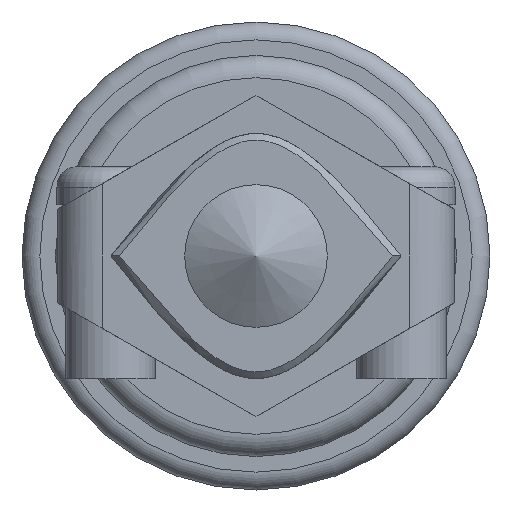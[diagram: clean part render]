
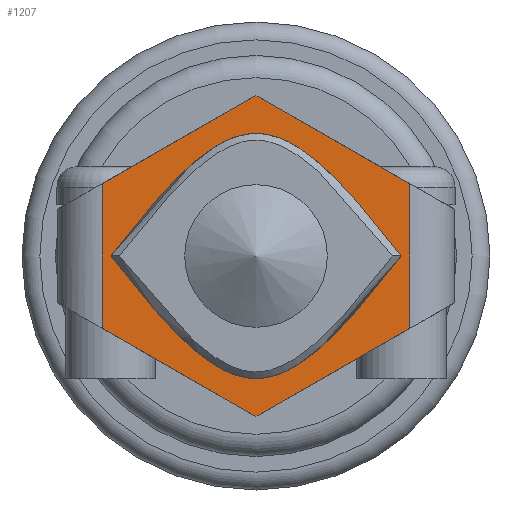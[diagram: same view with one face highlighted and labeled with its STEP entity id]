
A CAD part, left-side view. The second image highlights one B-rep face of the part: STEP entity #1207.
In plain terms, the highlighted planar face has unit normal (-1, 0, 0).
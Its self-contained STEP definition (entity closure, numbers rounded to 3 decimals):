
#64 = CARTESIAN_POINT ( 'NONE',  ( 111.691, 54.661, 50.653 ) ) ;
#113 = LINE ( 'NONE', #1614, #428 ) ;
#177 = VERTEX_POINT ( 'NONE', #1592 ) ;
#184 = CARTESIAN_POINT ( 'NONE',  ( 111.691, 61.561, 54.607 ) ) ;
#202 = FACE_OUTER_BOUND ( 'NONE', #673, .T. ) ;
#216 = ORIENTED_EDGE ( 'NONE', *, *, #2241, .F. ) ;
#304 = DIRECTION ( 'NONE',  ( 0., 0., -1. ) ) ;
#340 = VECTOR ( 'NONE', #2310, 1000. ) ;
#399 = VERTEX_POINT ( 'NONE', #584 ) ;
#424 = CARTESIAN_POINT ( 'NONE',  ( 111.691, 45.761, 55.753 ) ) ;
#428 = VECTOR ( 'NONE', #2366, 1000. ) ;
#482 = ORIENTED_EDGE ( 'NONE', *, *, #1874, .T. ) ;
#484 = CARTESIAN_POINT ( 'NONE',  ( 111.691, 45.761, 59.953 ) ) ;
#542 = EDGE_CURVE ( 'NONE', #968, #177, #690, .T. ) ;
#584 = CARTESIAN_POINT ( 'NONE',  ( 111.691, 61.161, 57.853 ) ) ;
#590 = ORIENTED_EDGE ( 'NONE', *, *, #542, .T. ) ;
#636 = CARTESIAN_POINT ( 'NONE',  ( 111.691, 61.161, 57.853 ) ) ;
#639 = AXIS2_PLACEMENT_3D ( 'NONE', #1683, #951, #913 ) ;
#656 = CARTESIAN_POINT ( 'NONE',  ( 111.691, 48.161, 57.853 ) ) ;
#659 = CARTESIAN_POINT ( 'NONE',  ( 111.691, 61.561, 59.953 ) ) ;
#665 = CARTESIAN_POINT ( 'NONE',  ( 111.691, 58.994, 55.103 ) ) ;
#671 = EDGE_CURVE ( 'NONE', #1957, #735, #1008, .T. ) ;
#673 = EDGE_LOOP ( 'NONE', ( #1228, #1177, #590, #938, #482, #2337 ) ) ;
#684 = CARTESIAN_POINT ( 'NONE',  ( 111.691, 47.761, 61.099 ) ) ;
#690 = LINE ( 'NONE', #484, #2046 ) ;
#691 = CARTESIAN_POINT ( 'NONE',  ( 111.691, 47.761, 54.607 ) ) ;
#735 = VERTEX_POINT ( 'NONE', #64 ) ;
#797 = EDGE_CURVE ( 'NONE', #735, #1891, #2358, .T. ) ;
#800 = VERTEX_POINT ( 'NONE', #1165 ) ;
#822 = VECTOR ( 'NONE', #1389, 1000. ) ;
#825 = CARTESIAN_POINT ( 'NONE',  ( 111.691, 61.161, 57.853 ) ) ;
#913 = DIRECTION ( 'NONE',  ( 0., 0., 1. ) ) ;
#922 = CARTESIAN_POINT ( 'NONE',  ( 111.691, 61.561, 61.099 ) ) ;
#938 = ORIENTED_EDGE ( 'NONE', *, *, #1056, .T. ) ;
#951 = DIRECTION ( 'NONE',  ( 1., 0., 0. ) ) ;
#968 = VERTEX_POINT ( 'NONE', #684 ) ;
#1008 = LINE ( 'NONE', #1415, #340 ) ;
#1025 = CARTESIAN_POINT ( 'NONE',  ( 111.691, 54.661, 66.103 ) ) ;
#1035 = DIRECTION ( 'NONE',  ( 0., 0., 1. ) ) ;
#1039 = VECTOR ( 'NONE', #304, 1000. ) ;
#1056 = EDGE_CURVE ( 'NONE', #177, #1659, #113, .T. ) ;
#1107 = ORIENTED_EDGE ( 'NONE', *, *, #2252, .F. ) ;
#1165 = CARTESIAN_POINT ( 'NONE',  ( 111.691, 48.161, 57.853 ) ) ;
#1177 = ORIENTED_EDGE ( 'NONE', *, *, #2271, .T. ) ;
#1197 = B_SPLINE_CURVE_WITH_KNOTS ( 'NONE', 3,
 ( #825, #665, #1417, #2380, #1588 ),
 .UNSPECIFIED., .F., .F.,
 ( 4, 1, 4 ),
 ( 0., 0.5, 1. ),
 .UNSPECIFIED. ) ;
#1207 = ADVANCED_FACE ( 'NONE', ( #202, #1706 ), #1331, .F. ) ;
#1228 = ORIENTED_EDGE ( 'NONE', *, *, #797, .T. ) ;
#1229 = CARTESIAN_POINT ( 'NONE',  ( 111.691, 47.761, 59.953 ) ) ;
#1331 = PLANE ( 'NONE',  #639 ) ;
#1389 = DIRECTION ( 'NONE',  ( 0., -0.868, 0.497 ) ) ;
#1415 = CARTESIAN_POINT ( 'NONE',  ( 111.691, 63.561, 55.753 ) ) ;
#1417 = CARTESIAN_POINT ( 'NONE',  ( 111.691, 54.661, 49.603 ) ) ;
#1427 = CARTESIAN_POINT ( 'NONE',  ( 111.691, 50.327, 60.603 ) ) ;
#1588 = CARTESIAN_POINT ( 'NONE',  ( 111.691, 48.161, 57.853 ) ) ;
#1592 = CARTESIAN_POINT ( 'NONE',  ( 111.691, 54.661, 65.053 ) ) ;
#1614 = CARTESIAN_POINT ( 'NONE',  ( 111.691, 63.561, 59.953 ) ) ;
#1659 = VERTEX_POINT ( 'NONE', #922 ) ;
#1683 = CARTESIAN_POINT ( 'NONE',  ( 111.691, 63.561, 59.953 ) ) ;
#1706 = FACE_BOUND ( 'NONE', #2045, .T. ) ;
#1874 = EDGE_CURVE ( 'NONE', #1659, #1957, #2196, .T. ) ;
#1891 = VERTEX_POINT ( 'NONE', #691 ) ;
#1957 = VERTEX_POINT ( 'NONE', #184 ) ;
#1969 = VECTOR ( 'NONE', #1035, 1000. ) ;
#1989 = LINE ( 'NONE', #1229, #1969 ) ;
#2045 = EDGE_LOOP ( 'NONE', ( #216, #1107 ) ) ;
#2046 = VECTOR ( 'NONE', #2403, 1000. ) ;
#2196 = LINE ( 'NONE', #659, #1039 ) ;
#2241 = EDGE_CURVE ( 'NONE', #399, #800, #1197, .T. ) ;
#2252 = EDGE_CURVE ( 'NONE', #800, #399, #2255, .T. ) ;
#2255 = B_SPLINE_CURVE_WITH_KNOTS ( 'NONE', 3,
 ( #656, #1427, #1025, #2338, #636 ),
 .UNSPECIFIED., .F., .F.,
 ( 4, 1, 4 ),
 ( 0., 0.5, 1. ),
 .UNSPECIFIED. ) ;
#2271 = EDGE_CURVE ( 'NONE', #1891, #968, #1989, .T. ) ;
#2310 = DIRECTION ( 'NONE',  ( 0., -0.868, -0.497 ) ) ;
#2337 = ORIENTED_EDGE ( 'NONE', *, *, #671, .T. ) ;
#2338 = CARTESIAN_POINT ( 'NONE',  ( 111.691, 58.994, 60.603 ) ) ;
#2358 = LINE ( 'NONE', #424, #822 ) ;
#2366 = DIRECTION ( 'NONE',  ( 0., 0.868, -0.497 ) ) ;
#2380 = CARTESIAN_POINT ( 'NONE',  ( 111.691, 50.327, 55.103 ) ) ;
#2403 = DIRECTION ( 'NONE',  ( 0., 0.868, 0.497 ) ) ;
